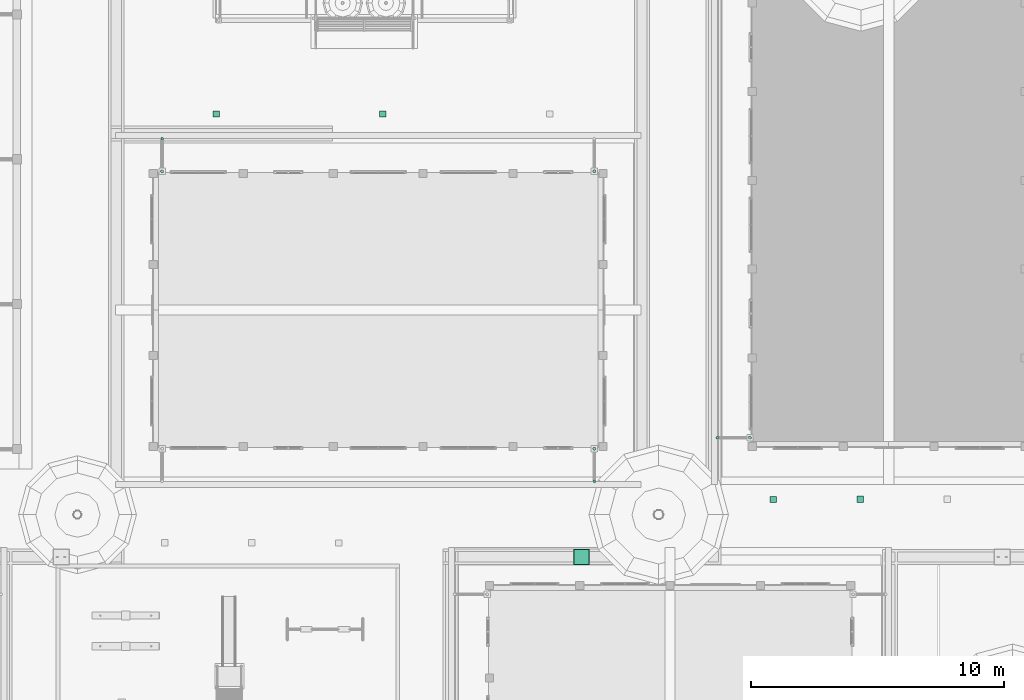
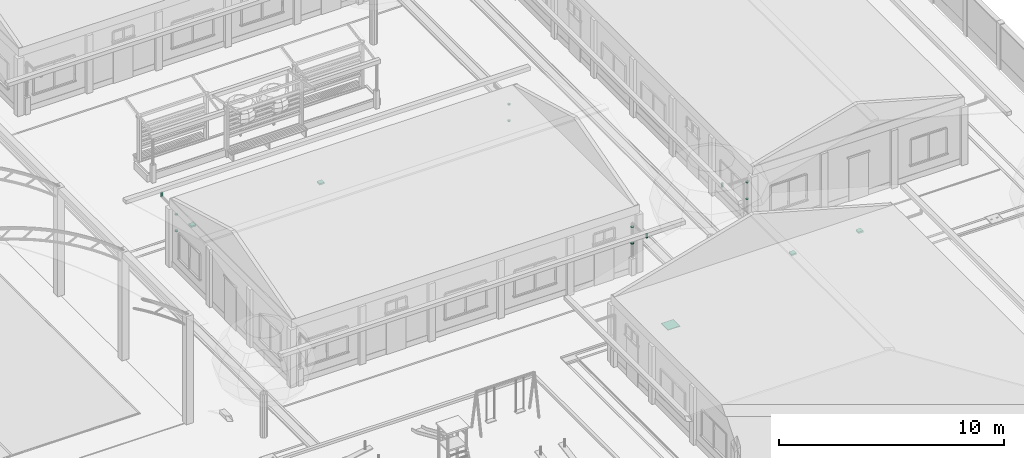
# One storey, part 127 of 177: 11 pipe segments, 4 waste terminals, 2 distribution chamber elements.
"""IFC4 building model written with IfcOpenShell, lengths in metres."""

from ifc_helpers import new_model, si_unit, origin, origin_with_axes, place, context, subcontext, project, spatial, triangles, element, save


model = new_model("IFC4")

# Units and contexts
model_context = context("Model", 3, precision=1e-05, world=origin_with_axes())
body_context = subcontext(model_context, "Body", "Model", "MODEL_VIEW")
ifc_project = project(units=[si_unit("LENGTHUNIT", "METRE"), si_unit("AREAUNIT", "SQUARE_METRE"), si_unit("VOLUMEUNIT", "CUBIC_METRE"), si_unit("PLANEANGLEUNIT", "RADIAN")], contexts=[model_context])

# Site, building, storey
site_placement = place(None, origin_with_axes())
site = spatial("IfcSite", under=ifc_project, at=site_placement, Name="Predio Los Mangos - Morales, San Martín", CompositionType="ELEMENT")
building_placement = place(site_placement, origin())
building = spatial("IfcBuilding", under=site, at=building_placement, Name="Hogar de Refugio Temporal", CompositionType="ELEMENT")
storey_placement = place(building_placement, origin())
storey = spatial("IfcBuildingStorey", under=building, at=storey_placement, Name="NIVEL 1 (NPT +0.00)", CompositionType="ELEMENT", Elevation=0.0)

# Pipe segments
pipe_segment_1_placement = place(storey_placement, origin())
element("IfcPipeSegment", 1, at=pipe_segment_1_placement, inside=storey, Name="montante_boquilla", ObjectType="Montante PVC 4\"", PredefinedType="RIGIDSEGMENT", context=body_context, shape_type="Tessellation", body=[
    triangles([(49.45, 91.375, 3.13), (49.45, 91.375, 2.91), (49.4225, 91.3676, 3.13), (49.4225, 91.3676, 2.91), (49.4024, 91.3475, 3.13), (49.4024, 91.3475, 2.91), (49.395, 91.32, 3.13), (49.395, 91.32, 2.91), (49.4024, 91.2925, 3.13), (49.4024, 91.2925, 2.91), (49.4225, 91.2724, 3.13), (49.4225, 91.2724, 2.91), (49.45, 91.265, 3.13), (49.45, 91.265, 2.91), (49.4775, 91.2724, 3.13), (49.4775, 91.2724, 2.91), (49.4976, 91.2925, 3.13), (49.4976, 91.2925, 2.91), (49.505, 91.32, 3.13), (49.505, 91.32, 2.91), (49.4976, 91.3475, 3.13), (49.4976, 91.3475, 2.91), (49.4775, 91.3676, 3.13), (49.4775, 91.3676, 2.91)], [[1, 2, 4], [1, 4, 3], [3, 4, 6], [3, 6, 5], [5, 6, 8], [5, 8, 7], [7, 8, 10], [7, 10, 9], [9, 10, 12], [9, 12, 11], [11, 12, 14], [11, 14, 13], [13, 14, 16], [13, 16, 15], [15, 16, 18], [15, 18, 17], [17, 18, 20], [17, 20, 19], [19, 20, 22], [19, 22, 21], [6, 4, 2], [2, 24, 22], [22, 20, 18], [18, 16, 14], [14, 12, 10], [10, 8, 6], [6, 2, 22], [22, 18, 14], [14, 10, 6], [22, 14, 6], [21, 22, 24], [21, 24, 23], [23, 24, 2], [23, 2, 1], [23, 1, 3], [3, 5, 7], [7, 9, 11], [11, 13, 15], [15, 17, 19], [19, 21, 23], [23, 3, 7], [7, 11, 15], [15, 19, 23], [7, 15, 23]]),
])
pipe_segment_2_placement = place(storey_placement, origin())
element("IfcPipeSegment", 2, at=pipe_segment_2_placement, inside=storey, Name="montante_abrazadera", ObjectType="Montante PVC 4\"", PredefinedType="RIGIDSEGMENT", context=body_context, shape_type="Tessellation", body=[
    triangles([(49.45, 92.548, 1.8), (49.45, 92.548, 1.84), (49.419, 92.5563, 1.8), (49.419, 92.5563, 1.84), (49.3963, 92.579, 1.8), (49.3963, 92.579, 1.84), (49.388, 92.61, 1.8), (49.388, 92.61, 1.84), (49.3963, 92.641, 1.8), (49.3963, 92.641, 1.84), (49.419, 92.6637, 1.8), (49.419, 92.6637, 1.84), (49.45, 92.672, 1.8), (49.45, 92.672, 1.84), (49.481, 92.6637, 1.8), (49.481, 92.6637, 1.84), (49.5037, 92.641, 1.8), (49.5037, 92.641, 1.84), (49.512, 92.61, 1.8), (49.512, 92.61, 1.84), (49.5037, 92.579, 1.8), (49.5037, 92.579, 1.84), (49.481, 92.5563, 1.8), (49.481, 92.5563, 1.84)], [[1, 2, 4], [1, 4, 3], [3, 4, 6], [3, 6, 5], [5, 6, 8], [5, 8, 7], [7, 8, 10], [7, 10, 9], [9, 10, 12], [9, 12, 11], [11, 12, 14], [11, 14, 13], [13, 14, 16], [13, 16, 15], [15, 16, 18], [15, 18, 17], [17, 18, 20], [17, 20, 19], [19, 20, 22], [19, 22, 21], [6, 4, 2], [2, 24, 22], [22, 20, 18], [18, 16, 14], [14, 12, 10], [10, 8, 6], [6, 2, 22], [22, 18, 14], [14, 10, 6], [22, 14, 6], [21, 22, 24], [21, 24, 23], [23, 24, 2], [23, 2, 1], [23, 1, 3], [3, 5, 7], [7, 9, 11], [11, 13, 15], [15, 17, 19], [19, 21, 23], [23, 3, 7], [7, 11, 15], [15, 19, 23], [7, 15, 23]]),
])
pipe_segment_3_placement = place(storey_placement, origin())
element("IfcPipeSegment", 3, at=pipe_segment_3_placement, inside=storey, Name="montante_abrazadera", ObjectType="Montante PVC 4\"", PredefinedType="RIGIDSEGMENT", context=body_context, shape_type="Tessellation", body=[
    triangles([(49.45, 92.548, 2.7), (49.45, 92.548, 2.74), (49.419, 92.5563, 2.7), (49.419, 92.5563, 2.74), (49.3963, 92.579, 2.7), (49.3963, 92.579, 2.74), (49.388, 92.61, 2.7), (49.388, 92.61, 2.74), (49.3963, 92.641, 2.7), (49.3963, 92.641, 2.74), (49.419, 92.6637, 2.7), (49.419, 92.6637, 2.74), (49.45, 92.672, 2.7), (49.45, 92.672, 2.74), (49.481, 92.6637, 2.7), (49.481, 92.6637, 2.74), (49.5037, 92.641, 2.7), (49.5037, 92.641, 2.74), (49.512, 92.61, 2.7), (49.512, 92.61, 2.74), (49.5037, 92.579, 2.7), (49.5037, 92.579, 2.74), (49.481, 92.5563, 2.7), (49.481, 92.5563, 2.74)], [[1, 2, 4], [1, 4, 3], [3, 4, 6], [3, 6, 5], [5, 6, 8], [5, 8, 7], [7, 8, 10], [7, 10, 9], [9, 10, 12], [9, 12, 11], [11, 12, 14], [11, 14, 13], [13, 14, 16], [13, 16, 15], [15, 16, 18], [15, 18, 17], [17, 18, 20], [17, 20, 19], [19, 20, 22], [19, 22, 21], [6, 4, 2], [2, 24, 22], [22, 20, 18], [18, 16, 14], [14, 12, 10], [10, 8, 6], [6, 2, 22], [22, 18, 14], [14, 10, 6], [22, 14, 6], [21, 22, 24], [21, 24, 23], [23, 24, 2], [23, 2, 1], [23, 1, 3], [3, 5, 7], [7, 9, 11], [11, 13, 15], [15, 17, 19], [19, 21, 23], [23, 3, 7], [7, 11, 15], [15, 19, 23], [7, 15, 23]]),
])
pipe_segment_4_placement = place(storey_placement, origin())
element("IfcPipeSegment", 4, at=pipe_segment_4_placement, inside=storey, Name="montante_boquilla", ObjectType="Montante PVC 4\"", PredefinedType="RIGIDSEGMENT", context=body_context, shape_type="Tessellation", body=[
    triangles([(32.35, 104.935, 3.13), (32.35, 104.935, 2.91), (32.3225, 104.9276, 3.13), (32.3225, 104.9276, 2.91), (32.3024, 104.9075, 3.13), (32.3024, 104.9075, 2.91), (32.295, 104.88, 3.13), (32.295, 104.88, 2.91), (32.3024, 104.8525, 3.13), (32.3024, 104.8525, 2.91), (32.3225, 104.8324, 3.13), (32.3225, 104.8324, 2.91), (32.35, 104.825, 3.13), (32.35, 104.825, 2.91), (32.3775, 104.8324, 3.13), (32.3775, 104.8324, 2.91), (32.3976, 104.8525, 3.13), (32.3976, 104.8525, 2.91), (32.405, 104.88, 3.13), (32.405, 104.88, 2.91), (32.3976, 104.9075, 3.13), (32.3976, 104.9075, 2.91), (32.3775, 104.9276, 3.13), (32.3775, 104.9276, 2.91)], [[1, 2, 4], [1, 4, 3], [3, 4, 6], [3, 6, 5], [5, 6, 8], [5, 8, 7], [7, 8, 10], [7, 10, 9], [9, 10, 12], [9, 12, 11], [11, 12, 14], [11, 14, 13], [13, 14, 16], [13, 16, 15], [15, 16, 18], [15, 18, 17], [17, 18, 20], [17, 20, 19], [19, 20, 22], [19, 22, 21], [6, 4, 2], [2, 24, 22], [22, 20, 18], [18, 16, 14], [14, 12, 10], [10, 8, 6], [6, 2, 22], [22, 18, 14], [14, 10, 6], [22, 14, 6], [21, 22, 24], [21, 24, 23], [23, 24, 2], [23, 2, 1], [23, 1, 3], [3, 5, 7], [7, 9, 11], [11, 13, 15], [15, 17, 19], [19, 21, 23], [23, 3, 7], [7, 11, 15], [15, 19, 23], [7, 15, 23]]),
])
pipe_segment_5_placement = place(storey_placement, origin())
element("IfcPipeSegment", 5, at=pipe_segment_5_placement, inside=storey, Name="montante_abrazadera", ObjectType="Montante PVC 4\"", PredefinedType="RIGIDSEGMENT", context=body_context, shape_type="Tessellation", body=[
    triangles([(32.35, 103.528, 1.8), (32.35, 103.528, 1.84), (32.319, 103.5363, 1.8), (32.319, 103.5363, 1.84), (32.2963, 103.559, 1.8), (32.2963, 103.559, 1.84), (32.288, 103.59, 1.8), (32.288, 103.59, 1.84), (32.2963, 103.621, 1.8), (32.2963, 103.621, 1.84), (32.319, 103.6437, 1.8), (32.319, 103.6437, 1.84), (32.35, 103.652, 1.8), (32.35, 103.652, 1.84), (32.381, 103.6437, 1.8), (32.381, 103.6437, 1.84), (32.4037, 103.621, 1.8), (32.4037, 103.621, 1.84), (32.412, 103.59, 1.8), (32.412, 103.59, 1.84), (32.4037, 103.559, 1.8), (32.4037, 103.559, 1.84), (32.381, 103.5363, 1.8), (32.381, 103.5363, 1.84)], [[1, 2, 4], [1, 4, 3], [3, 4, 6], [3, 6, 5], [5, 6, 8], [5, 8, 7], [7, 8, 10], [7, 10, 9], [9, 10, 12], [9, 12, 11], [11, 12, 14], [11, 14, 13], [13, 14, 16], [13, 16, 15], [15, 16, 18], [15, 18, 17], [17, 18, 20], [17, 20, 19], [19, 20, 22], [19, 22, 21], [6, 4, 2], [2, 24, 22], [22, 20, 18], [18, 16, 14], [14, 12, 10], [10, 8, 6], [6, 2, 22], [22, 18, 14], [14, 10, 6], [22, 14, 6], [21, 22, 24], [21, 24, 23], [23, 24, 2], [23, 2, 1], [23, 1, 3], [3, 5, 7], [7, 9, 11], [11, 13, 15], [15, 17, 19], [19, 21, 23], [23, 3, 7], [7, 11, 15], [15, 19, 23], [7, 15, 23]]),
])
pipe_segment_6_placement = place(storey_placement, origin())
element("IfcPipeSegment", 6, at=pipe_segment_6_placement, inside=storey, Name="montante_abrazadera", ObjectType="Montante PVC 4\"", PredefinedType="RIGIDSEGMENT", context=body_context, shape_type="Tessellation", body=[
    triangles([(32.35, 103.528, 2.7), (32.35, 103.528, 2.74), (32.319, 103.5363, 2.7), (32.319, 103.5363, 2.74), (32.2963, 103.559, 2.7), (32.2963, 103.559, 2.74), (32.288, 103.59, 2.7), (32.288, 103.59, 2.74), (32.2963, 103.621, 2.7), (32.2963, 103.621, 2.74), (32.319, 103.6437, 2.7), (32.319, 103.6437, 2.74), (32.35, 103.652, 2.7), (32.35, 103.652, 2.74), (32.381, 103.6437, 2.7), (32.381, 103.6437, 2.74), (32.4037, 103.621, 2.7), (32.4037, 103.621, 2.74), (32.412, 103.59, 2.7), (32.412, 103.59, 2.74), (32.4037, 103.559, 2.7), (32.4037, 103.559, 2.74), (32.381, 103.5363, 2.7), (32.381, 103.5363, 2.74)], [[1, 2, 4], [1, 4, 3], [3, 4, 6], [3, 6, 5], [5, 6, 8], [5, 8, 7], [7, 8, 10], [7, 10, 9], [9, 10, 12], [9, 12, 11], [11, 12, 14], [11, 14, 13], [13, 14, 16], [13, 16, 15], [15, 16, 18], [15, 18, 17], [17, 18, 20], [17, 20, 19], [19, 20, 22], [19, 22, 21], [6, 4, 2], [2, 24, 22], [22, 20, 18], [18, 16, 14], [14, 12, 10], [10, 8, 6], [6, 2, 22], [22, 18, 14], [14, 10, 6], [22, 14, 6], [21, 22, 24], [21, 24, 23], [23, 24, 2], [23, 2, 1], [23, 1, 3], [3, 5, 7], [7, 9, 11], [11, 13, 15], [15, 17, 19], [19, 21, 23], [23, 3, 7], [7, 11, 15], [15, 19, 23], [7, 15, 23]]),
])
pipe_segment_7_placement = place(storey_placement, origin())
element("IfcPipeSegment", 7, at=pipe_segment_7_placement, inside=storey, Name="montante_abrazadera", ObjectType="Montante PVC 4\"", PredefinedType="RIGIDSEGMENT", context=body_context, shape_type="Tessellation", body=[
    triangles([(49.45, 103.528, 1.8), (49.45, 103.528, 1.84), (49.419, 103.5363, 1.8), (49.419, 103.5363, 1.84), (49.3963, 103.559, 1.8), (49.3963, 103.559, 1.84), (49.388, 103.59, 1.8), (49.388, 103.59, 1.84), (49.3963, 103.621, 1.8), (49.3963, 103.621, 1.84), (49.419, 103.6437, 1.8), (49.419, 103.6437, 1.84), (49.45, 103.652, 1.8), (49.45, 103.652, 1.84), (49.481, 103.6437, 1.8), (49.481, 103.6437, 1.84), (49.5037, 103.621, 1.8), (49.5037, 103.621, 1.84), (49.512, 103.59, 1.8), (49.512, 103.59, 1.84), (49.5037, 103.559, 1.8), (49.5037, 103.559, 1.84), (49.481, 103.5363, 1.8), (49.481, 103.5363, 1.84)], [[1, 2, 4], [1, 4, 3], [3, 4, 6], [3, 6, 5], [5, 6, 8], [5, 8, 7], [7, 8, 10], [7, 10, 9], [9, 10, 12], [9, 12, 11], [11, 12, 14], [11, 14, 13], [13, 14, 16], [13, 16, 15], [15, 16, 18], [15, 18, 17], [17, 18, 20], [17, 20, 19], [19, 20, 22], [19, 22, 21], [6, 4, 2], [2, 24, 22], [22, 20, 18], [18, 16, 14], [14, 12, 10], [10, 8, 6], [6, 2, 22], [22, 18, 14], [14, 10, 6], [22, 14, 6], [21, 22, 24], [21, 24, 23], [23, 24, 2], [23, 2, 1], [23, 1, 3], [3, 5, 7], [7, 9, 11], [11, 13, 15], [15, 17, 19], [19, 21, 23], [23, 3, 7], [7, 11, 15], [15, 19, 23], [7, 15, 23]]),
])
pipe_segment_8_placement = place(storey_placement, origin())
element("IfcPipeSegment", 8, at=pipe_segment_8_placement, inside=storey, Name="montante_abrazadera", ObjectType="Montante PVC 4\"", PredefinedType="RIGIDSEGMENT", context=body_context, shape_type="Tessellation", body=[
    triangles([(49.45, 103.528, 2.7), (49.45, 103.528, 2.74), (49.419, 103.5363, 2.7), (49.419, 103.5363, 2.74), (49.3963, 103.559, 2.7), (49.3963, 103.559, 2.74), (49.388, 103.59, 2.7), (49.388, 103.59, 2.74), (49.3963, 103.621, 2.7), (49.3963, 103.621, 2.74), (49.419, 103.6437, 2.7), (49.419, 103.6437, 2.74), (49.45, 103.652, 2.7), (49.45, 103.652, 2.74), (49.481, 103.6437, 2.7), (49.481, 103.6437, 2.74), (49.5037, 103.621, 2.7), (49.5037, 103.621, 2.74), (49.512, 103.59, 2.7), (49.512, 103.59, 2.74), (49.5037, 103.559, 2.7), (49.5037, 103.559, 2.74), (49.481, 103.5363, 2.7), (49.481, 103.5363, 2.74)], [[1, 2, 4], [1, 4, 3], [3, 4, 6], [3, 6, 5], [5, 6, 8], [5, 8, 7], [7, 8, 10], [7, 10, 9], [9, 10, 12], [9, 12, 11], [11, 12, 14], [11, 14, 13], [13, 14, 16], [13, 16, 15], [15, 16, 18], [15, 18, 17], [17, 18, 20], [17, 20, 19], [19, 20, 22], [19, 22, 21], [6, 4, 2], [2, 24, 22], [22, 20, 18], [18, 16, 14], [14, 12, 10], [10, 8, 6], [6, 2, 22], [22, 18, 14], [14, 10, 6], [22, 14, 6], [21, 22, 24], [21, 24, 23], [23, 24, 2], [23, 2, 1], [23, 1, 3], [3, 5, 7], [7, 9, 11], [11, 13, 15], [15, 17, 19], [19, 21, 23], [23, 3, 7], [7, 11, 15], [15, 19, 23], [7, 15, 23]]),
])
pipe_segment_9_placement = place(storey_placement, origin())
element("IfcPipeSegment", 9, at=pipe_segment_9_placement, inside=storey, Name="montante_boquilla", ObjectType="Montante PVC 4\"", PredefinedType="RIGIDSEGMENT", context=body_context, shape_type="Tessellation", body=[
    triangles([(54.32, 93.105, 3.13), (54.32, 93.105, 2.91), (54.2925, 93.0976, 3.13), (54.2925, 93.0976, 2.91), (54.2724, 93.0775, 3.13), (54.2724, 93.0775, 2.91), (54.265, 93.05, 3.13), (54.265, 93.05, 2.91), (54.2724, 93.0225, 3.13), (54.2724, 93.0225, 2.91), (54.2925, 93.0024, 3.13), (54.2925, 93.0024, 2.91), (54.32, 92.995, 3.13), (54.32, 92.995, 2.91), (54.3475, 93.0024, 3.13), (54.3475, 93.0024, 2.91), (54.3676, 93.0225, 3.13), (54.3676, 93.0225, 2.91), (54.375, 93.05, 3.13), (54.375, 93.05, 2.91), (54.3676, 93.0775, 3.13), (54.3676, 93.0775, 2.91), (54.3475, 93.0976, 3.13), (54.3475, 93.0976, 2.91)], [[1, 2, 4], [1, 4, 3], [3, 4, 6], [3, 6, 5], [5, 6, 8], [5, 8, 7], [7, 8, 10], [7, 10, 9], [9, 10, 12], [9, 12, 11], [11, 12, 14], [11, 14, 13], [13, 14, 16], [13, 16, 15], [15, 16, 18], [15, 18, 17], [17, 18, 20], [17, 20, 19], [19, 20, 22], [19, 22, 21], [6, 4, 2], [2, 24, 22], [22, 20, 18], [18, 16, 14], [14, 12, 10], [10, 8, 6], [6, 2, 22], [22, 18, 14], [14, 10, 6], [22, 14, 6], [21, 22, 24], [21, 24, 23], [23, 24, 2], [23, 2, 1], [23, 1, 3], [3, 5, 7], [7, 9, 11], [11, 13, 15], [15, 17, 19], [19, 21, 23], [23, 3, 7], [7, 11, 15], [15, 19, 23], [7, 15, 23]]),
])
pipe_segment_10_placement = place(storey_placement, origin())
element("IfcPipeSegment", 10, at=pipe_segment_10_placement, inside=storey, Name="montante_abrazadera", ObjectType="Montante PVC 4\"", PredefinedType="RIGIDSEGMENT", context=body_context, shape_type="Tessellation", body=[
    triangles([(55.61, 92.988, 1.8), (55.61, 92.988, 1.84), (55.579, 92.9963, 1.8), (55.579, 92.9963, 1.84), (55.5563, 93.019, 1.8), (55.5563, 93.019, 1.84), (55.548, 93.05, 1.8), (55.548, 93.05, 1.84), (55.5563, 93.081, 1.8), (55.5563, 93.081, 1.84), (55.579, 93.1037, 1.8), (55.579, 93.1037, 1.84), (55.61, 93.112, 1.8), (55.61, 93.112, 1.84), (55.641, 93.1037, 1.8), (55.641, 93.1037, 1.84), (55.6637, 93.081, 1.8), (55.6637, 93.081, 1.84), (55.672, 93.05, 1.8), (55.672, 93.05, 1.84), (55.6637, 93.019, 1.8), (55.6637, 93.019, 1.84), (55.641, 92.9963, 1.8), (55.641, 92.9963, 1.84)], [[1, 2, 4], [1, 4, 3], [3, 4, 6], [3, 6, 5], [5, 6, 8], [5, 8, 7], [7, 8, 10], [7, 10, 9], [9, 10, 12], [9, 12, 11], [11, 12, 14], [11, 14, 13], [13, 14, 16], [13, 16, 15], [15, 16, 18], [15, 18, 17], [17, 18, 20], [17, 20, 19], [19, 20, 22], [19, 22, 21], [6, 4, 2], [2, 24, 22], [22, 20, 18], [18, 16, 14], [14, 12, 10], [10, 8, 6], [6, 2, 22], [22, 18, 14], [14, 10, 6], [22, 14, 6], [21, 22, 24], [21, 24, 23], [23, 24, 2], [23, 2, 1], [23, 1, 3], [3, 5, 7], [7, 9, 11], [11, 13, 15], [15, 17, 19], [19, 21, 23], [23, 3, 7], [7, 11, 15], [15, 19, 23], [7, 15, 23]]),
])
pipe_segment_11_placement = place(storey_placement, origin())
element("IfcPipeSegment", 11, at=pipe_segment_11_placement, inside=storey, Name="montante_abrazadera", ObjectType="Montante PVC 4\"", PredefinedType="RIGIDSEGMENT", context=body_context, shape_type="Tessellation", body=[
    triangles([(55.61, 92.988, 2.7), (55.61, 92.988, 2.74), (55.579, 92.9963, 2.7), (55.579, 92.9963, 2.74), (55.5563, 93.019, 2.7), (55.5563, 93.019, 2.74), (55.548, 93.05, 2.7), (55.548, 93.05, 2.74), (55.5563, 93.081, 2.7), (55.5563, 93.081, 2.74), (55.579, 93.1037, 2.7), (55.579, 93.1037, 2.74), (55.61, 93.112, 2.7), (55.61, 93.112, 2.74), (55.641, 93.1037, 2.7), (55.641, 93.1037, 2.74), (55.6637, 93.081, 2.7), (55.6637, 93.081, 2.74), (55.672, 93.05, 2.7), (55.672, 93.05, 2.74), (55.6637, 93.019, 2.7), (55.6637, 93.019, 2.74), (55.641, 92.9963, 2.7), (55.641, 92.9963, 2.74)], [[1, 2, 4], [1, 4, 3], [3, 4, 6], [3, 6, 5], [5, 6, 8], [5, 8, 7], [7, 8, 10], [7, 10, 9], [9, 10, 12], [9, 12, 11], [11, 12, 14], [11, 14, 13], [13, 14, 16], [13, 16, 15], [15, 16, 18], [15, 18, 17], [17, 18, 20], [17, 20, 19], [19, 20, 22], [19, 22, 21], [6, 4, 2], [2, 24, 22], [22, 20, 18], [18, 16, 14], [14, 12, 10], [10, 8, 6], [6, 2, 22], [22, 18, 14], [14, 10, 6], [22, 14, 6], [21, 22, 24], [21, 24, 23], [23, 24, 2], [23, 2, 1], [23, 1, 3], [3, 5, 7], [7, 9, 11], [11, 13, 15], [15, 17, 19], [19, 21, 23], [23, 3, 7], [7, 11, 15], [15, 19, 23], [7, 15, 23]]),
])

# Waste terminals
waste_terminal_1_placement = place(storey_placement, origin())
element("IfcWasteTerminal", 12, at=waste_terminal_1_placement, inside=storey, Name="sumidero_fondo", ObjectType="Sumidero con rejilla", PredefinedType="GULLYTRAP", context=body_context, shape_type="Tessellation", body=[
    triangles([(34.36, 105.732, -0.02), (34.61, 105.732, -0.02), (34.61, 105.982, -0.02), (34.36, 105.982, -0.02), (34.36, 105.732, 0.064), (34.61, 105.732, 0.064), (34.61, 105.982, 0.064), (34.36, 105.982, 0.064)], [[1, 4, 3], [1, 3, 2], [5, 6, 7], [5, 7, 8], [1, 2, 6], [1, 6, 5], [2, 3, 7], [2, 7, 6], [3, 4, 8], [3, 8, 7], [4, 1, 5], [4, 5, 8]]),
])
waste_terminal_2_placement = place(storey_placement, origin())
element("IfcWasteTerminal", 13, at=waste_terminal_2_placement, inside=storey, Name="sumidero_fondo", ObjectType="Sumidero con rejilla", PredefinedType="GULLYTRAP", context=body_context, shape_type="Tessellation", body=[
    triangles([(40.96, 105.732, -0.02), (41.21, 105.732, -0.02), (41.21, 105.982, -0.02), (40.96, 105.982, -0.02), (40.96, 105.732, 0.064), (41.21, 105.732, 0.064), (41.21, 105.982, 0.064), (40.96, 105.982, 0.064)], [[1, 4, 3], [1, 3, 2], [5, 6, 7], [5, 7, 8], [1, 2, 6], [1, 6, 5], [2, 3, 7], [2, 7, 6], [3, 4, 8], [3, 8, 7], [4, 1, 5], [4, 5, 8]]),
])
waste_terminal_3_placement = place(storey_placement, origin())
element("IfcWasteTerminal", 14, at=waste_terminal_3_placement, inside=storey, Name="sumidero_fondo", ObjectType="Sumidero con rejilla", PredefinedType="GULLYTRAP", context=body_context, shape_type="Tessellation", body=[
    triangles([(56.41, 90.477, -0.02), (56.66, 90.477, -0.02), (56.66, 90.727, -0.02), (56.41, 90.727, -0.02), (56.41, 90.477, 0.064), (56.66, 90.477, 0.064), (56.66, 90.727, 0.064), (56.41, 90.727, 0.064)], [[1, 4, 3], [1, 3, 2], [5, 6, 7], [5, 7, 8], [1, 2, 6], [1, 6, 5], [2, 3, 7], [2, 7, 6], [3, 4, 8], [3, 8, 7], [4, 1, 5], [4, 5, 8]]),
])
waste_terminal_4_placement = place(storey_placement, origin())
element("IfcWasteTerminal", 15, at=waste_terminal_4_placement, inside=storey, Name="sumidero_fondo", ObjectType="Sumidero con rejilla", PredefinedType="GULLYTRAP", context=body_context, shape_type="Tessellation", body=[
    triangles([(59.85, 90.484, -0.02), (60.1, 90.484, -0.02), (60.1, 90.734, -0.02), (59.85, 90.734, -0.02), (59.85, 90.484, 0.064), (60.1, 90.484, 0.064), (60.1, 90.734, 0.064), (59.85, 90.734, 0.064)], [[1, 4, 3], [1, 3, 2], [5, 6, 7], [5, 7, 8], [1, 2, 6], [1, 6, 5], [2, 3, 7], [2, 7, 6], [3, 4, 8], [3, 8, 7], [4, 1, 5], [4, 5, 8]]),
])

# Distribution chamber elements
distribution_chamber_element_1_placement = place(storey_placement, origin())
element("IfcDistributionChamberElement", 16, at=distribution_chamber_element_1_placement, inside=storey, Name="tapa_insp_junta", ObjectType="Tapa de inspección", PredefinedType="INSPECTIONCHAMBER", context=body_context, shape_type="Tessellation", body=[
    triangles([(48.629, 88.009, 0.148), (49.269, 88.009, 0.148), (49.269, 88.649, 0.148), (48.629, 88.649, 0.148), (48.629, 88.009, 0.162), (49.269, 88.009, 0.162), (49.269, 88.649, 0.162), (48.629, 88.649, 0.162)], [[1, 4, 3], [1, 3, 2], [5, 6, 7], [5, 7, 8], [1, 2, 6], [1, 6, 5], [2, 3, 7], [2, 7, 6], [3, 4, 8], [3, 8, 7], [4, 1, 5], [4, 5, 8]]),
])
distribution_chamber_element_2_placement = place(storey_placement, origin())
element("IfcDistributionChamberElement", 17, at=distribution_chamber_element_2_placement, inside=storey, Name="tapa_inspeccion", ObjectType="Tapa de inspección", PredefinedType="INSPECTIONCHAMBER", context=body_context, shape_type="Tessellation", body=[
    triangles([(48.649, 88.029, 0.148), (49.249, 88.029, 0.148), (49.249, 88.629, 0.148), (48.649, 88.629, 0.148), (48.649, 88.029, 0.17), (49.249, 88.029, 0.17), (49.249, 88.629, 0.17), (48.649, 88.629, 0.17)], [[1, 4, 3], [1, 3, 2], [5, 6, 7], [5, 7, 8], [1, 2, 6], [1, 6, 5], [2, 3, 7], [2, 7, 6], [3, 4, 8], [3, 8, 7], [4, 1, 5], [4, 5, 8]]),
])

save(model, "model.ifc")
